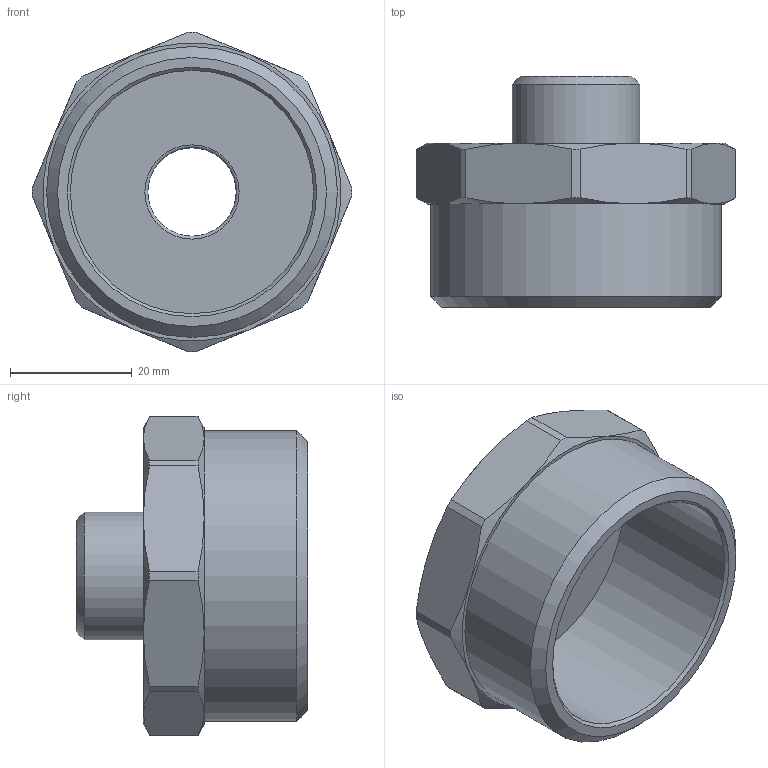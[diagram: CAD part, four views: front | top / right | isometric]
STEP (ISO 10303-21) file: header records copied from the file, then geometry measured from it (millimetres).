
FILE_DESCRIPTION(('STEP AP203'), '1');
FILE_NAME('ÂÐ.753157.007 - VTr.580.N.0804 Íèïïåëü G1 1-2xG1-2', '2024-07-03T10:18:59', ('Boss'), (''), 'C3D Converter', 'C3D Toolkit', '');
FILE_SCHEMA(('CONFIG_CONTROL_DESIGN'));
Length unit declared in the file: millimetre
Products named in the file (1): ВР.753157.007
Bounding box: 52.5 x 38 x 52.5 mm (x, y, z)
Volume: 21325.3 mm3; surface area: 11823.6 mm2
Topology: 1 solids, 1 shells, 46 faces, 102 edges, 61 vertices
Faces by surface type: cone 20, plane 13, cylinder 12, torus 1
Full cylindrical faces by diameter (mm): 14.5 x1, 20.955 x1, 40 x1, 47.803 x1
Entity records: 2077 total; most frequent: CARTESIAN_POINT 1127, DIRECTION 192, ORIENTED_EDGE 178, EDGE_CURVE 89, AXIS2_PLACEMENT_3D 88, VERTEX_POINT 59, EDGE_LOOP 58, ADVANCED_FACE 44
